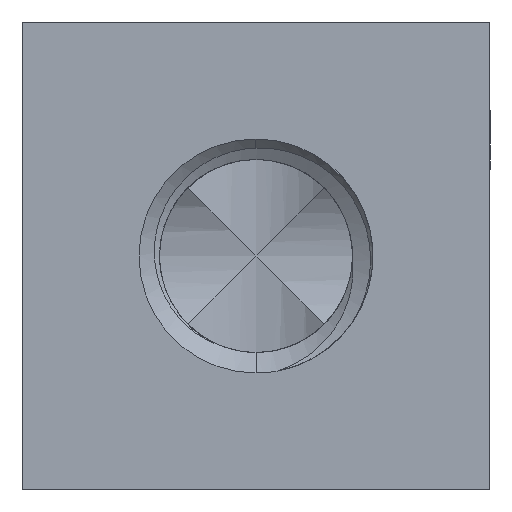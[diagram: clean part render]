
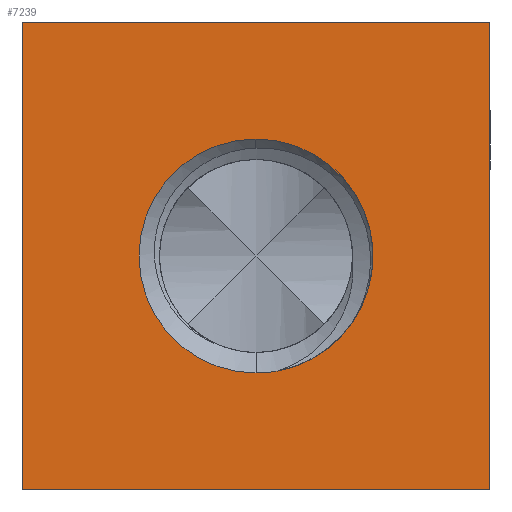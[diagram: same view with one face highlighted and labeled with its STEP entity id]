
A CAD part, front view. The second image highlights one B-rep face of the part: STEP entity #7239.
In plain terms, the highlighted planar face has unit normal (0, -1, 0).
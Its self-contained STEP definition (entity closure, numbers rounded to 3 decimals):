
#555 = FACE_OUTER_BOUND ( 'NONE', #44113, .T. ) ;
#2063 = LINE ( 'NONE', #31162, #31004 ) ;
#3612 = DIRECTION ( 'NONE',  ( 0., 0., 1. ) ) ;
#3693 = VECTOR ( 'NONE', #38791, 1000. ) ;
#4009 = DIRECTION ( 'NONE',  ( 0., 0., 1. ) ) ;
#4346 = DIRECTION ( 'NONE',  ( 0., 0., 1. ) ) ;
#4779 = VERTEX_POINT ( 'NONE', #34151 ) ;
#5552 = VERTEX_POINT ( 'NONE', #35007 ) ;
#6014 = ORIENTED_EDGE ( 'NONE', *, *, #33047, .T. ) ;
#6913 = VERTEX_POINT ( 'NONE', #20455 ) ;
#7239 = ADVANCED_FACE ( 'NONE', ( #26275, #555 ), #7933, .F. ) ;
#7487 = CARTESIAN_POINT ( 'NONE',  ( 0., -4., 0. ) ) ;
#7826 = EDGE_CURVE ( 'NONE', #6913, #18384, #42929, .T. ) ;
#7933 = PLANE ( 'NONE',  #28884 ) ;
#8034 = CARTESIAN_POINT ( 'NONE',  ( -4., -4., 0. ) ) ;
#8063 = DIRECTION ( 'NONE',  ( 0., 1., 0. ) ) ;
#9994 = EDGE_CURVE ( 'NONE', #6913, #5552, #21961, .T. ) ;
#10014 = CARTESIAN_POINT ( 'NONE',  ( 4., -4., -4. ) ) ;
#11899 = EDGE_CURVE ( 'NONE', #4779, #16306, #23012, .T. ) ;
#12093 = CARTESIAN_POINT ( 'NONE',  ( 0., -4., 2. ) ) ;
#12273 = DIRECTION ( 'NONE',  ( 0., 1., 0. ) ) ;
#12352 = AXIS2_PLACEMENT_3D ( 'NONE', #32510, #12273, #15293 ) ;
#13175 = CIRCLE ( 'NONE', #15257, 2. ) ;
#13277 = AXIS2_PLACEMENT_3D ( 'NONE', #18417, #8063, #28784 ) ;
#13875 = VERTEX_POINT ( 'NONE', #40904 ) ;
#14724 = EDGE_CURVE ( 'NONE', #5552, #13875, #2063, .T. ) ;
#15257 = AXIS2_PLACEMENT_3D ( 'NONE', #24554, #32332, #4009 ) ;
#15293 = DIRECTION ( 'NONE',  ( 0., 0., 1. ) ) ;
#16306 = VERTEX_POINT ( 'NONE', #27122 ) ;
#16921 = ORIENTED_EDGE ( 'NONE', *, *, #9994, .F. ) ;
#17174 = VECTOR ( 'NONE', #42279, 1000. ) ;
#17962 = AXIS2_PLACEMENT_3D ( 'NONE', #31036, #20715, #3612 ) ;
#18384 = VERTEX_POINT ( 'NONE', #10014 ) ;
#18417 = CARTESIAN_POINT ( 'NONE',  ( 0., -4., 0. ) ) ;
#18550 = ORIENTED_EDGE ( 'NONE', *, *, #11899, .T. ) ;
#20455 = CARTESIAN_POINT ( 'NONE',  ( -4., -4., -4. ) ) ;
#20715 = DIRECTION ( 'NONE',  ( 0., 1., 0. ) ) ;
#21961 = LINE ( 'NONE', #8034, #3693 ) ;
#22559 = EDGE_LOOP ( 'NONE', ( #18550, #28642, #29750, #6014 ) ) ;
#22598 = CARTESIAN_POINT ( 'NONE',  ( 4., -4., 0. ) ) ;
#23012 = CIRCLE ( 'NONE', #17962, 2. ) ;
#24554 = CARTESIAN_POINT ( 'NONE',  ( 0., -4., 0. ) ) ;
#26275 = FACE_BOUND ( 'NONE', #22559, .T. ) ;
#26313 = ORIENTED_EDGE ( 'NONE', *, *, #33228, .T. ) ;
#27122 = CARTESIAN_POINT ( 'NONE',  ( 0.359, -4., -1.967 ) ) ;
#28642 = ORIENTED_EDGE ( 'NONE', *, *, #34505, .T. ) ;
#28767 = ORIENTED_EDGE ( 'NONE', *, *, #14724, .F. ) ;
#28784 = DIRECTION ( 'NONE',  ( 0., 0., 1. ) ) ;
#28884 = AXIS2_PLACEMENT_3D ( 'NONE', #7487, #31759, #4346 ) ;
#29253 = EDGE_CURVE ( 'NONE', #34536, #33704, #36124, .T. ) ;
#29750 = ORIENTED_EDGE ( 'NONE', *, *, #29253, .T. ) ;
#30883 = DIRECTION ( 'NONE',  ( 1., 0., 0. ) ) ;
#31004 = VECTOR ( 'NONE', #30883, 1000. ) ;
#31036 = CARTESIAN_POINT ( 'NONE',  ( 0., -4., 0. ) ) ;
#31162 = CARTESIAN_POINT ( 'NONE',  ( 0., -4., 4. ) ) ;
#31759 = DIRECTION ( 'NONE',  ( 0., 1., 0. ) ) ;
#32332 = DIRECTION ( 'NONE',  ( 0., 1., 0. ) ) ;
#32510 = CARTESIAN_POINT ( 'NONE',  ( 0., -4., 0. ) ) ;
#32614 = DIRECTION ( 'NONE',  ( 0., 0., 1. ) ) ;
#32998 = VECTOR ( 'NONE', #32614, 1000. ) ;
#33047 = EDGE_CURVE ( 'NONE', #33704, #4779, #13175, .T. ) ;
#33228 = EDGE_CURVE ( 'NONE', #18384, #13875, #42141, .T. ) ;
#33704 = VERTEX_POINT ( 'NONE', #12093 ) ;
#34151 = CARTESIAN_POINT ( 'NONE',  ( 1.637, -4., -1.149 ) ) ;
#34505 = EDGE_CURVE ( 'NONE', #16306, #34536, #38357, .T. ) ;
#34536 = VERTEX_POINT ( 'NONE', #35655 ) ;
#35007 = CARTESIAN_POINT ( 'NONE',  ( -4., -4., 4. ) ) ;
#35378 = CARTESIAN_POINT ( 'NONE',  ( 0., -4., -4. ) ) ;
#35655 = CARTESIAN_POINT ( 'NONE',  ( 0., -4., -2. ) ) ;
#36124 = CIRCLE ( 'NONE', #12352, 2. ) ;
#38357 = CIRCLE ( 'NONE', #13277, 2. ) ;
#38791 = DIRECTION ( 'NONE',  ( 0., 0., 1. ) ) ;
#39155 = ORIENTED_EDGE ( 'NONE', *, *, #7826, .T. ) ;
#40904 = CARTESIAN_POINT ( 'NONE',  ( 4., -4., 4. ) ) ;
#42141 = LINE ( 'NONE', #22598, #32998 ) ;
#42279 = DIRECTION ( 'NONE',  ( 1., 0., 0. ) ) ;
#42929 = LINE ( 'NONE', #35378, #17174 ) ;
#44113 = EDGE_LOOP ( 'NONE', ( #28767, #16921, #39155, #26313 ) ) ;
